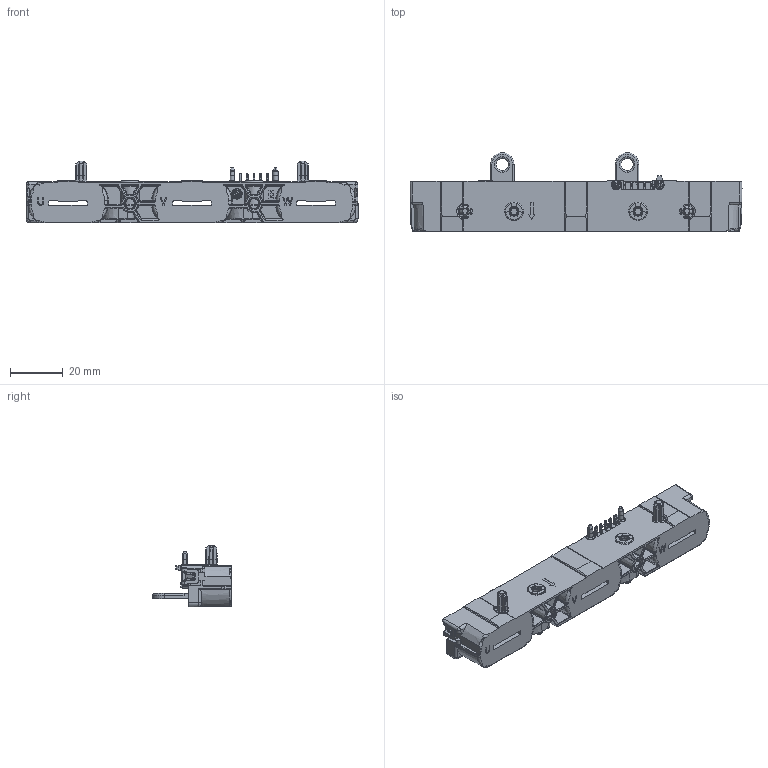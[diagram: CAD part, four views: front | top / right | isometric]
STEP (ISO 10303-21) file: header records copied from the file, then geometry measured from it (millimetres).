
FILE_DESCRIPTION(('Creo Elements/Direct Modeling STEP Export'),'2;1');
FILE_NAME('123.stp','2023-09-20T15:14:03',(''),(''),'Creo Elements/Direct Modeling STEP processor for AP214 (Solid Model)','Creo Elements/Direct Modeling 20.3D 14-Nov-2022 (C) Parametric Technology GmbH','');
FILE_SCHEMA(('AUTOMOTIVE_DESIGN { 1 0 10303 214 1 1 1 1 }'));
Length unit declared in the file: millimetre
Products named in the file (2): HAH3DR-XXX-S07-SP2
Assembly tree (1 placements, depth 2):
  HAH3DR-XXX-S07-SP2
    HAH3DR-XXX-S07-SP2
Bounding box: 125.81 x 29.85 x 23.45 mm (x, y, z)
Volume: 27796.8 mm3; surface area: 15902.7 mm2
Topology: 15 solids, 25 shells, 4160 faces, 10934 edges, 6848 vertices
Faces by surface type: plane 1985, cylinder 1164, bspline 754, torus 136, cone 79, sphere 32, extrusion 10
Entity records: 230266 total; most frequent: CARTESIAN_POINT 104092, ORIENTED_EDGE 21718, DIRECTION 16192, EDGE_CURVE 10859, VERTEX_POINT 6848, VECTOR 6222, LINE 6213, AXIS2_PLACEMENT_3D 4985
